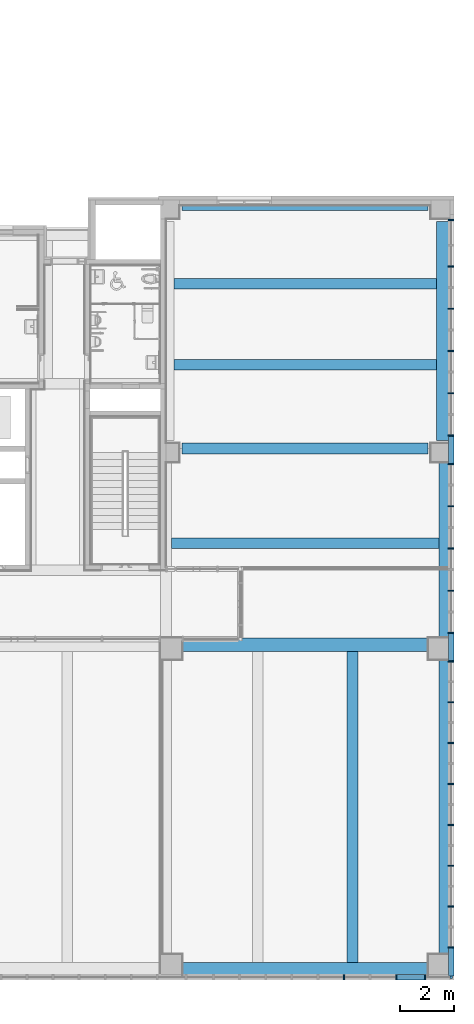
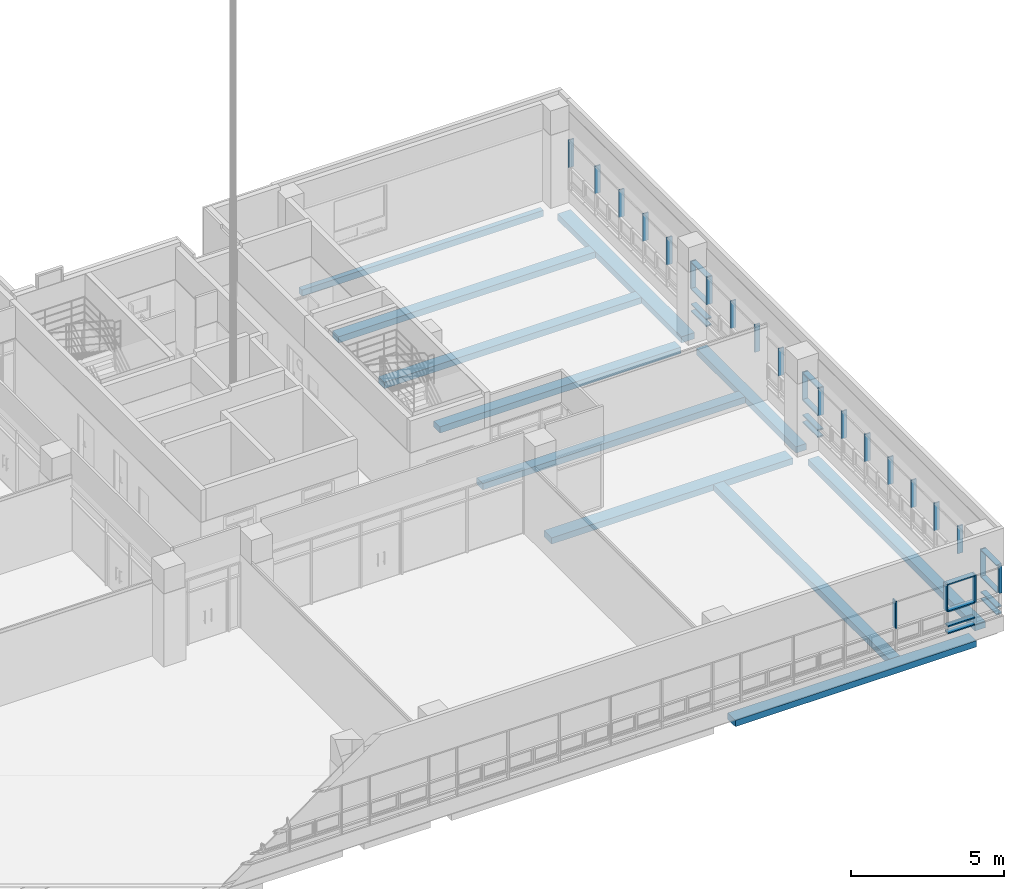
# One storey, part 7 of 82: 39 members, 11 beams, 2 elements without a shape of their own.
"""IFC2X3 building model written with IfcOpenShell, lengths in millimetres."""

from ifc_helpers import new_model, entity, si_unit, converted_unit, derived_unit, direction, frame, frame_2d, origin, origin_2d_with_axis, place, context, subcontext, project, spatial, rectangle, extrude, source, transform, mapped, material, type_object, type_shapes, element, aggregate, save


model = new_model("IFC2X3")

# Units and contexts
model_context = context("Model", 3, precision=0.01, world=origin(), true_north=direction((6.123031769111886e-17, 1.0)))
body_context = subcontext(model_context, "Body", "Model", "MODEL_VIEW")
ifc_project = project(units=[si_unit("LENGTHUNIT", "METRE", prefix="MILLI"), si_unit("AREAUNIT", "SQUARE_METRE"), si_unit("VOLUMEUNIT", "CUBIC_METRE"), converted_unit("PLANEANGLEUNIT", "DEGREE", entity("IfcRatioMeasure", 0.017453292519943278), si_unit("PLANEANGLEUNIT", "RADIAN"), dimensions=[0, 0, 0, 0, 0, 0, 0]), si_unit("MASSUNIT", "GRAM", prefix="KILO"), derived_unit("MASSDENSITYUNIT", [(si_unit("MASSUNIT", "GRAM", prefix="KILO"), 1), (si_unit("LENGTHUNIT", "METRE"), -3)]), derived_unit("MOMENTOFINERTIAUNIT", [(si_unit("LENGTHUNIT", "METRE"), 4)]), si_unit("TIMEUNIT", "SECOND"), si_unit("FREQUENCYUNIT", "HERTZ"), si_unit("THERMODYNAMICTEMPERATUREUNIT", "DEGREE_CELSIUS"), derived_unit("THERMALTRANSMITTANCEUNIT", [(si_unit("MASSUNIT", "GRAM", prefix="KILO"), 1), (si_unit("THERMODYNAMICTEMPERATUREUNIT", "KELVIN"), -1), (si_unit("TIMEUNIT", "SECOND"), -3)]), derived_unit("VOLUMETRICFLOWRATEUNIT", [(si_unit("LENGTHUNIT", "METRE"), 3), (si_unit("TIMEUNIT", "SECOND"), -1)]), derived_unit("MASSFLOWRATEUNIT", [(si_unit("MASSUNIT", "GRAM", prefix="KILO"), 1), (si_unit("TIMEUNIT", "SECOND"), -1)]), derived_unit("ROTATIONALFREQUENCYUNIT", [(si_unit("TIMEUNIT", "SECOND"), -1)]), si_unit("ELECTRICCURRENTUNIT", "AMPERE"), si_unit("ELECTRICVOLTAGEUNIT", "VOLT"), si_unit("POWERUNIT", "WATT"), si_unit("FORCEUNIT", "NEWTON", prefix="KILO"), si_unit("ILLUMINANCEUNIT", "LUX"), si_unit("LUMINOUSFLUXUNIT", "LUMEN"), si_unit("LUMINOUSINTENSITYUNIT", "CANDELA"), derived_unit("USERDEFINED", [(si_unit("MASSUNIT", "GRAM", prefix="KILO"), -1), (si_unit("LENGTHUNIT", "METRE"), -2), (si_unit("TIMEUNIT", "SECOND"), 3), (si_unit("LUMINOUSFLUXUNIT", "LUMEN"), 1)]), derived_unit("SOUNDPOWERUNIT", [(si_unit("MASSUNIT", "GRAM", prefix="KILO"), 1), (si_unit("LENGTHUNIT", "METRE"), 2), (si_unit("TIMEUNIT", "SECOND"), -3)]), derived_unit("SOUNDPRESSUREUNIT", [(si_unit("MASSUNIT", "GRAM", prefix="KILO"), 1), (si_unit("LENGTHUNIT", "METRE"), -1), (si_unit("TIMEUNIT", "SECOND"), -2)]), derived_unit("LINEARVELOCITYUNIT", [(si_unit("LENGTHUNIT", "METRE"), 1), (si_unit("TIMEUNIT", "SECOND"), -1)]), si_unit("PRESSUREUNIT", "PASCAL"), derived_unit("USERDEFINED", [(si_unit("LENGTHUNIT", "METRE"), -2), (si_unit("MASSUNIT", "GRAM", prefix="KILO"), 1), (si_unit("TIMEUNIT", "SECOND"), -2)]), derived_unit("LINEARFORCEUNIT", [(si_unit("MASSUNIT", "GRAM", prefix="KILO"), 1), (si_unit("LENGTHUNIT", "METRE"), 1), (si_unit("TIMEUNIT", "SECOND"), -2), (si_unit("LENGTHUNIT", "METRE"), -1)]), derived_unit("PLANARFORCEUNIT", [(si_unit("MASSUNIT", "GRAM", prefix="KILO"), 1), (si_unit("LENGTHUNIT", "METRE"), 1), (si_unit("TIMEUNIT", "SECOND"), -2), (si_unit("LENGTHUNIT", "METRE"), -2)])], contexts=[model_context])

# Site, building, storey
site_placement = place(None, frame((-14167.972527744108, -657.2125860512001, 0.0)))
site = spatial("IfcSite", under=ifc_project, at=site_placement, Name="Default", CompositionType="ELEMENT")
building_placement = place(site_placement, origin())
building = spatial("IfcBuilding", under=site, at=building_placement, Name="Sample Building", CompositionType="ELEMENT")
storey_placement = place(building_placement, frame((0.0, 0.0, 17500.0)))
storey = spatial("IfcBuildingStorey", under=building, at=storey_placement, Name="지상 5층", CompositionType="ELEMENT", Elevation=17500.00000000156)

# Curtain wall, members
curtain_wall_type = type_object("IfcCurtainWallType", Name="커튼월:CW112-스테인리스 스틸 커튼월", PredefinedType="NOTDEFINED")
curtain_wall_1_placement = place(storey_placement, frame((0.0, 0.0, -17500.0)))
curtain_wall_1 = element("IfcCurtainWall", 1, at=curtain_wall_1_placement, inside=storey, type_object=curtain_wall_type, Name="커튼월:CW112-스테인리스 스틸 커튼월", ObjectType="커튼월:CW112-스테인리스 스틸 커튼월")
ifc_material_1 = material(Name="<Unnamed>")
member_type_1 = type_object("IfcMemberType", Name="직사각형 멀리언:CW200-직사각형 멀리언 50x200mm", PredefinedType="MULLION", material=ifc_material_1)
shared_shape_1 = source(origin(), body_context, "Body", "SweptSolid", [
    extrude(rectangle(XDim=200.0, YDim=50.0, at=origin_2d_with_axis()), frame((-25.0, 0.0, -1000.0), z_axis=(0.0, 0.0, 1.0), x_axis=(0.0, -1.0, 0.0)), (0.0, 0.0, 1.0), 1000.0000000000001),
])
type_shapes(member_type_1, [shared_shape_1])
member_1_placement = place(curtain_wall_1_placement, frame((51517.963828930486, 13215.817707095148, 18100.0), z_axis=(0.0, 1.0, 0.0), x_axis=(0.0, 0.0, -1.0)))
member_1 = element("IfcMember", 2, at=member_1_placement, type_object=member_type_1, material=ifc_material_1, Name="직사각형 멀리언:CW200-직사각형 멀리언 50x200mm", ObjectType="직사각형 멀리언:CW200-직사각형 멀리언 50x200mm", context=body_context, shape_type="MappedRepresentation", body=[
    mapped(shared_shape_1, transform((0.0, 0.0, 0.0), scale=1.0)),
])
member_2_placement = place(curtain_wall_1_placement, frame((51517.9638289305, 20513.817707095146, 18100.0), z_axis=(0.0, 1.0, 0.0), x_axis=(0.0, 0.0, -1.0)))
member_2 = element("IfcMember", 3, at=member_2_placement, type_object=member_type_1, material=ifc_material_1, Name="직사각형 멀리언:CW200-직사각형 멀리언 50x200mm", ObjectType="직사각형 멀리언:CW200-직사각형 멀리언 50x200mm", context=body_context, shape_type="MappedRepresentation", body=[
    mapped(shared_shape_1, transform((0.0, 0.0, 0.0), scale=1.0)),
])
member_type_2 = type_object("IfcMemberType", Name="직사각형 멀리언:CW200-직사각형 멀리언 50x200mm", PredefinedType="MULLION", material=ifc_material_1)
shared_shape_2 = source(origin(), body_context, "Body", "SweptSolid", [
    extrude(rectangle(XDim=200.0, YDim=50.0, at=origin_2d_with_axis()), frame((0.0, 0.0, -1000.0), z_axis=(0.0, 0.0, 1.0), x_axis=(0.0, -1.0, 0.0)), (0.0, 0.0, 1.0), 999.999999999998),
])
type_shapes(member_type_2, [shared_shape_2])
member_3_placement = place(curtain_wall_1_placement, frame((51517.963828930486, 12215.81770709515, 18400.0), z_axis=(0.0, -1.0, 0.0), x_axis=(0.0, 0.0, 1.0)))
member_3 = element("IfcMember", 4, at=member_3_placement, type_object=member_type_2, material=ifc_material_1, Name="직사각형 멀리언:CW200-직사각형 멀리언 50x200mm", ObjectType="직사각형 멀리언:CW200-직사각형 멀리언 50x200mm", context=body_context, shape_type="MappedRepresentation", body=[
    mapped(shared_shape_2, transform((0.0, 0.0, 0.0), scale=1.0)),
])
member_4_placement = place(curtain_wall_1_placement, frame((51517.963828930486, 12215.817707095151, 19000.0), z_axis=(0.0, -1.0, 0.0), x_axis=(0.0, 0.0, 1.0)))
member_4 = element("IfcMember", 5, at=member_4_placement, type_object=member_type_2, material=ifc_material_1, Name="직사각형 멀리언:CW200-직사각형 멀리언 50x200mm", ObjectType="직사각형 멀리언:CW200-직사각형 멀리언 50x200mm", context=body_context, shape_type="MappedRepresentation", body=[
    mapped(shared_shape_2, transform((0.0, 0.0, 0.0), scale=1.0)),
])
member_5_placement = place(curtain_wall_1_placement, frame((51517.96382893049, 19513.817707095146, 18400.0), z_axis=(0.0, -1.0, 0.0), x_axis=(0.0, 0.0, 1.0)))
member_5 = element("IfcMember", 6, at=member_5_placement, type_object=member_type_2, material=ifc_material_1, Name="직사각형 멀리언:CW200-직사각형 멀리언 50x200mm", ObjectType="직사각형 멀리언:CW200-직사각형 멀리언 50x200mm", context=body_context, shape_type="MappedRepresentation", body=[
    mapped(shared_shape_2, transform((0.0, 0.0, 0.0), scale=1.0)),
])
member_6_placement = place(curtain_wall_1_placement, frame((51517.96382893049, 19513.817707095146, 19000.0), z_axis=(0.0, -1.0, 0.0), x_axis=(0.0, 0.0, 1.0)))
member_6 = element("IfcMember", 7, at=member_6_placement, type_object=member_type_2, material=ifc_material_1, Name="직사각형 멀리언:CW200-직사각형 멀리언 50x200mm", ObjectType="직사각형 멀리언:CW200-직사각형 멀리언 50x200mm", context=body_context, shape_type="MappedRepresentation", body=[
    mapped(shared_shape_2, transform((0.0, 0.0, 0.0), scale=1.0)),
])
member_type_3 = type_object("IfcMemberType", Name="직사각형 멀리언:CW200-직사각형 멀리언 50x200mm", PredefinedType="MULLION", material=ifc_material_1)
shared_shape_3 = source(origin(), body_context, "Body", "SweptSolid", [
    extrude(rectangle(XDim=200.0, YDim=50.0, at=origin_2d_with_axis()), frame((-25.0, 0.0, -1000.0), z_axis=(0.0, 0.0, 1.0), x_axis=(0.0, -1.0, 0.0)), (0.0, 0.0, 1.0), 999.999999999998),
])
type_shapes(member_type_3, [shared_shape_3])
member_7_placement = place(curtain_wall_1_placement, frame((51517.963828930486, 12215.81770709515, 20100.0), z_axis=(0.0, -1.0, 0.0), x_axis=(0.0, 0.0, 1.0)))
member_7 = element("IfcMember", 8, at=member_7_placement, type_object=member_type_3, material=ifc_material_1, Name="직사각형 멀리언:CW200-직사각형 멀리언 50x200mm", ObjectType="직사각형 멀리언:CW200-직사각형 멀리언 50x200mm", context=body_context, shape_type="MappedRepresentation", body=[
    mapped(shared_shape_3, transform((0.0, 0.0, 0.0), scale=1.0)),
])
member_8_placement = place(curtain_wall_1_placement, frame((51517.96382893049, 19513.817707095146, 20100.0), z_axis=(0.0, -1.0, 0.0), x_axis=(0.0, 0.0, 1.0)))
member_8 = element("IfcMember", 9, at=member_8_placement, type_object=member_type_3, material=ifc_material_1, Name="직사각형 멀리언:CW200-직사각형 멀리언 50x200mm", ObjectType="직사각형 멀리언:CW200-직사각형 멀리언 50x200mm", context=body_context, shape_type="MappedRepresentation", body=[
    mapped(shared_shape_3, transform((0.0, 0.0, 0.0), scale=1.0)),
])
member_type_4 = type_object("IfcMemberType", Name="직사각형 멀리언:CW200-직사각형 멀리언 50x200mm", PredefinedType="MULLION", material=ifc_material_1)
shared_shape_4 = source(origin(), body_context, "Body", "SweptSolid", [
    extrude(rectangle(XDim=200.0, YDim=50.0, at=origin_2d_with_axis()), frame((-25.0, 0.0, -1100.0), z_axis=(0.0, 0.0, 1.0), x_axis=(0.0, -1.0, 0.0)), (0.0, 0.0, 1.0), 1100.0000000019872),
])
type_shapes(member_type_4, [shared_shape_4])
member_9_placement = place(curtain_wall_1_placement, frame((51517.96382893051, 28539.21239593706, 20100.0), z_axis=(0.0, 0.0, 1.0), x_axis=(0.0, 1.0, 0.0)))
member_9 = element("IfcMember", 10, at=member_9_placement, type_object=member_type_4, material=ifc_material_1, Name="직사각형 멀리언:CW200-직사각형 멀리언 50x200mm", ObjectType="직사각형 멀리언:CW200-직사각형 멀리언 50x200mm", context=body_context, shape_type="MappedRepresentation", body=[
    mapped(shared_shape_4, transform((0.0, 0.0, 0.0), scale=1.0)),
])

# Curtain wall, member
curtain_wall_2_placement = place(storey_placement, frame((0.0, 0.0, -17500.0)))
curtain_wall_2 = element("IfcCurtainWall", 11, at=curtain_wall_2_placement, inside=storey, type_object=curtain_wall_type, Name="커튼월:CW112-스테인리스 스틸 커튼월", ObjectType="커튼월:CW112-스테인리스 스틸 커튼월")
member_type_5 = type_object("IfcMemberType", Name="직사각형 멀리언:CW200-직사각형 멀리언 100 x 100mm", PredefinedType="MULLION", material=ifc_material_1)
shared_shape_5 = source(origin(), body_context, "Body", "SweptSolid", [
    extrude(rectangle(XDim=99.99999999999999, YDim=100.0, at=origin_2d_with_axis()), frame((-50.0, 0.0, -1100.0), z_axis=(0.0, 0.0, 1.0), x_axis=(0.0, -1.0, 0.0)), (0.0, 0.0, 1.0), 1099.9999999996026),
])
type_shapes(member_type_5, [shared_shape_5])
member_10_placement = place(curtain_wall_2_placement, frame((51567.339654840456, 507.2122951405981, 19000.0), z_axis=(0.0, 0.0, -1.0), x_axis=(1.0, 0.0, 0.0)))
member_10 = element("IfcMember", 12, at=member_10_placement, type_object=member_type_5, material=ifc_material_1, Name="직사각형 멀리언:CW200-직사각형 멀리언 100 x 100mm", ObjectType="직사각형 멀리언:CW200-직사각형 멀리언 100 x 100mm", context=body_context, shape_type="MappedRepresentation", body=[
    mapped(shared_shape_5, transform((0.0, 0.0, 0.0), scale=1.0)),
])

# Member
member_type_6 = type_object("IfcMemberType", Name="직사각형 멀리언:CW200-직사각형 멀리언 50x200mm", PredefinedType="MULLION", material=ifc_material_1)
shared_shape_6 = source(origin(), body_context, "Body", "SweptSolid", [
    extrude(rectangle(XDim=200.0, YDim=50.0, at=origin_2d_with_axis()), frame((0.0, 0.0, -1100.0), z_axis=(0.0, 0.0, 1.0), x_axis=(0.0, -1.0, 0.0)), (0.0, 0.0, 1.0), 1100.0000000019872),
])
type_shapes(member_type_6, [shared_shape_6])
member_11_placement = place(curtain_wall_1_placement, frame((51517.96382893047, 1607.2122951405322, 19000.0), z_axis=(0.0, 0.0, -1.0), x_axis=(0.0, -1.0, 0.0)))
member_11 = element("IfcMember", 13, at=member_11_placement, type_object=member_type_6, material=ifc_material_1, Name="직사각형 멀리언:CW200-직사각형 멀리언 50x200mm", ObjectType="직사각형 멀리언:CW200-직사각형 멀리언 50x200mm", context=body_context, shape_type="MappedRepresentation", body=[
    mapped(shared_shape_6, transform((0.0, 0.0, 0.0), scale=1.0)),
])

member_12_placement = place(curtain_wall_1_placement, frame((51517.96382893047, 3119.1559254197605, 19000.0), z_axis=(0.0, 0.0, -1.0), x_axis=(0.0, -1.0, 0.0)))
member_12 = element("IfcMember", 14, at=member_12_placement, type_object=member_type_6, material=ifc_material_1, Name="직사각형 멀리언:CW200-직사각형 멀리언 50x200mm", ObjectType="직사각형 멀리언:CW200-직사각형 멀리언 50x200mm", context=body_context, shape_type="MappedRepresentation", body=[
    mapped(shared_shape_6, transform((0.0, 0.0, 0.0), scale=1.0)),
])

member_13_placement = place(curtain_wall_1_placement, frame((51517.96382893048, 4631.099555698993, 19000.0), z_axis=(0.0, 0.0, -1.0), x_axis=(0.0, -1.0, 0.0)))
member_13 = element("IfcMember", 15, at=member_13_placement, type_object=member_type_6, material=ifc_material_1, Name="직사각형 멀리언:CW200-직사각형 멀리언 50x200mm", ObjectType="직사각형 멀리언:CW200-직사각형 멀리언 50x200mm", context=body_context, shape_type="MappedRepresentation", body=[
    mapped(shared_shape_6, transform((0.0, 0.0, 0.0), scale=1.0)),
])

member_14_placement = place(curtain_wall_1_placement, frame((51517.96382893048, 6143.043185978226, 19000.0), z_axis=(0.0, 0.0, -1.0), x_axis=(0.0, -1.0, 0.0)))
member_14 = element("IfcMember", 16, at=member_14_placement, type_object=member_type_6, material=ifc_material_1, Name="직사각형 멀리언:CW200-직사각형 멀리언 50x200mm", ObjectType="직사각형 멀리언:CW200-직사각형 멀리언 50x200mm", context=body_context, shape_type="MappedRepresentation", body=[
    mapped(shared_shape_6, transform((0.0, 0.0, 0.0), scale=1.0)),
])

member_15_placement = place(curtain_wall_1_placement, frame((51517.96382893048, 7654.986816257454, 19000.0), z_axis=(0.0, 0.0, -1.0), x_axis=(0.0, -1.0, 0.0)))
member_15 = element("IfcMember", 17, at=member_15_placement, type_object=member_type_6, material=ifc_material_1, Name="직사각형 멀리언:CW200-직사각형 멀리언 50x200mm", ObjectType="직사각형 멀리언:CW200-직사각형 멀리언 50x200mm", context=body_context, shape_type="MappedRepresentation", body=[
    mapped(shared_shape_6, transform((0.0, 0.0, 0.0), scale=1.0)),
])

member_16_placement = place(curtain_wall_1_placement, frame((51517.963828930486, 9166.930446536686, 19000.0), z_axis=(0.0, 0.0, -1.0), x_axis=(0.0, -1.0, 0.0)))
member_16 = element("IfcMember", 18, at=member_16_placement, type_object=member_type_6, material=ifc_material_1, Name="직사각형 멀리언:CW200-직사각형 멀리언 50x200mm", ObjectType="직사각형 멀리언:CW200-직사각형 멀리언 50x200mm", context=body_context, shape_type="MappedRepresentation", body=[
    mapped(shared_shape_6, transform((0.0, 0.0, 0.0), scale=1.0)),
])

member_17_placement = place(curtain_wall_1_placement, frame((51517.963828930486, 10678.874076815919, 19000.0), z_axis=(0.0, 0.0, -1.0), x_axis=(0.0, -1.0, 0.0)))
member_17 = element("IfcMember", 19, at=member_17_placement, type_object=member_type_6, material=ifc_material_1, Name="직사각형 멀리언:CW200-직사각형 멀리언 50x200mm", ObjectType="직사각형 멀리언:CW200-직사각형 멀리언 50x200mm", context=body_context, shape_type="MappedRepresentation", body=[
    mapped(shared_shape_6, transform((0.0, 0.0, 0.0), scale=1.0)),
])

member_18_placement = place(curtain_wall_1_placement, frame((51517.963828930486, 12190.817707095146, 19000.0), z_axis=(0.0, 0.0, -1.0), x_axis=(0.0, -1.0, 0.0)))
member_18 = element("IfcMember", 20, at=member_18_placement, type_object=member_type_6, material=ifc_material_1, Name="직사각형 멀리언:CW200-직사각형 멀리언 50x200mm", ObjectType="직사각형 멀리언:CW200-직사각형 멀리언 50x200mm", context=body_context, shape_type="MappedRepresentation", body=[
    mapped(shared_shape_6, transform((0.0, 0.0, 0.0), scale=1.0)),
])

member_19_placement = place(curtain_wall_1_placement, frame((51517.963828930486, 13240.81770709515, 19000.0), z_axis=(0.0, 0.0, -1.0), x_axis=(0.0, -1.0, 0.0)))
member_19 = element("IfcMember", 21, at=member_19_placement, type_object=member_type_6, material=ifc_material_1, Name="직사각형 멀리언:CW200-직사각형 멀리언 50x200mm", ObjectType="직사각형 멀리언:CW200-직사각형 멀리언 50x200mm", context=body_context, shape_type="MappedRepresentation", body=[
    mapped(shared_shape_6, transform((0.0, 0.0, 0.0), scale=1.0)),
])

member_20_placement = place(curtain_wall_1_placement, frame((51517.96382893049, 14802.817707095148, 19000.0), z_axis=(0.0, 0.0, -1.0), x_axis=(0.0, -1.0, 0.0)))
member_20 = element("IfcMember", 22, at=member_20_placement, type_object=member_type_6, material=ifc_material_1, Name="직사각형 멀리언:CW200-직사각형 멀리언 50x200mm", ObjectType="직사각형 멀리언:CW200-직사각형 멀리언 50x200mm", context=body_context, shape_type="MappedRepresentation", body=[
    mapped(shared_shape_6, transform((0.0, 0.0, 0.0), scale=1.0)),
])

member_21_placement = place(curtain_wall_1_placement, frame((51517.96382893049, 16364.817707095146, 19000.0), z_axis=(0.0, 0.0, -1.0), x_axis=(0.0, -1.0, 0.0)))
member_21 = element("IfcMember", 23, at=member_21_placement, type_object=member_type_6, material=ifc_material_1, Name="직사각형 멀리언:CW200-직사각형 멀리언 50x200mm", ObjectType="직사각형 멀리언:CW200-직사각형 멀리언 50x200mm", context=body_context, shape_type="MappedRepresentation", body=[
    mapped(shared_shape_6, transform((0.0, 0.0, 0.0), scale=1.0)),
])

member_22_placement = place(curtain_wall_1_placement, frame((51517.96382893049, 17926.817707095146, 19000.0), z_axis=(0.0, 0.0, -1.0), x_axis=(0.0, -1.0, 0.0)))
member_22 = element("IfcMember", 24, at=member_22_placement, type_object=member_type_6, material=ifc_material_1, Name="직사각형 멀리언:CW200-직사각형 멀리언 50x200mm", ObjectType="직사각형 멀리언:CW200-직사각형 멀리언 50x200mm", context=body_context, shape_type="MappedRepresentation", body=[
    mapped(shared_shape_6, transform((0.0, 0.0, 0.0), scale=1.0)),
])

member_23_placement = place(curtain_wall_1_placement, frame((51517.96382893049, 19488.817707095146, 19000.0), z_axis=(0.0, 0.0, -1.0), x_axis=(0.0, -1.0, 0.0)))
member_23 = element("IfcMember", 25, at=member_23_placement, type_object=member_type_6, material=ifc_material_1, Name="직사각형 멀리언:CW200-직사각형 멀리언 50x200mm", ObjectType="직사각형 멀리언:CW200-직사각형 멀리언 50x200mm", context=body_context, shape_type="MappedRepresentation", body=[
    mapped(shared_shape_6, transform((0.0, 0.0, 0.0), scale=1.0)),
])

member_24_placement = place(curtain_wall_1_placement, frame((51517.9638289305, 20538.817707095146, 19000.0), z_axis=(0.0, 0.0, -1.0), x_axis=(0.0, -1.0, 0.0)))
member_24 = element("IfcMember", 26, at=member_24_placement, type_object=member_type_6, material=ifc_material_1, Name="직사각형 멀리언:CW200-직사각형 멀리언 50x200mm", ObjectType="직사각형 멀리언:CW200-직사각형 멀리언 50x200mm", context=body_context, shape_type="MappedRepresentation", body=[
    mapped(shared_shape_6, transform((0.0, 0.0, 0.0), scale=1.0)),
])

member_25_placement = place(curtain_wall_1_placement, frame((51517.9638289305, 22102.496624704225, 19000.0), z_axis=(0.0, 0.0, -1.0), x_axis=(0.0, -1.0, 0.0)))
member_25 = element("IfcMember", 27, at=member_25_placement, type_object=member_type_6, material=ifc_material_1, Name="직사각형 멀리언:CW200-직사각형 멀리언 50x200mm", ObjectType="직사각형 멀리언:CW200-직사각형 멀리언 50x200mm", context=body_context, shape_type="MappedRepresentation", body=[
    mapped(shared_shape_6, transform((0.0, 0.0, 0.0), scale=1.0)),
])

member_26_placement = place(curtain_wall_1_placement, frame((51517.9638289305, 23666.1755423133, 19000.0), z_axis=(0.0, 0.0, -1.0), x_axis=(0.0, -1.0, 0.0)))
member_26 = element("IfcMember", 28, at=member_26_placement, type_object=member_type_6, material=ifc_material_1, Name="직사각형 멀리언:CW200-직사각형 멀리언 50x200mm", ObjectType="직사각형 멀리언:CW200-직사각형 멀리언 50x200mm", context=body_context, shape_type="MappedRepresentation", body=[
    mapped(shared_shape_6, transform((0.0, 0.0, 0.0), scale=1.0)),
])

member_27_placement = place(curtain_wall_1_placement, frame((51517.9638289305, 25229.85445992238, 19000.0), z_axis=(0.0, 0.0, -1.0), x_axis=(0.0, -1.0, 0.0)))
member_27 = element("IfcMember", 29, at=member_27_placement, type_object=member_type_6, material=ifc_material_1, Name="직사각형 멀리언:CW200-직사각형 멀리언 50x200mm", ObjectType="직사각형 멀리언:CW200-직사각형 멀리언 50x200mm", context=body_context, shape_type="MappedRepresentation", body=[
    mapped(shared_shape_6, transform((0.0, 0.0, 0.0), scale=1.0)),
])

member_28_placement = place(curtain_wall_1_placement, frame((51517.96382893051, 26793.53337753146, 19000.0), z_axis=(0.0, 0.0, -1.0), x_axis=(0.0, -1.0, 0.0)))
member_28 = element("IfcMember", 30, at=member_28_placement, type_object=member_type_6, material=ifc_material_1, Name="직사각형 멀리언:CW200-직사각형 멀리언 50x200mm", ObjectType="직사각형 멀리언:CW200-직사각형 멀리언 50x200mm", context=body_context, shape_type="MappedRepresentation", body=[
    mapped(shared_shape_6, transform((0.0, 0.0, 0.0), scale=1.0)),
])

member_29_placement = place(curtain_wall_2_placement, frame((47555.156070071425, 507.2122951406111, 19000.0), z_axis=(0.0, 0.0, -1.0), x_axis=(1.0, 0.0, 0.0)))
member_29 = element("IfcMember", 31, at=member_29_placement, type_object=member_type_6, material=ifc_material_1, Name="직사각형 멀리언:CW200-직사각형 멀리언 50x200mm", ObjectType="직사각형 멀리언:CW200-직사각형 멀리언 50x200mm", context=body_context, shape_type="MappedRepresentation", body=[
    mapped(shared_shape_6, transform((0.0, 0.0, 0.0), scale=1.0)),
])

member_30_placement = place(curtain_wall_2_placement, frame((49485.15607007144, 507.21229514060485, 19000.0), z_axis=(0.0, 0.0, -1.0), x_axis=(1.0, 0.0, 0.0)))
member_30 = element("IfcMember", 32, at=member_30_placement, type_object=member_type_6, material=ifc_material_1, Name="직사각형 멀리언:CW200-직사각형 멀리언 50x200mm", ObjectType="직사각형 멀리언:CW200-직사각형 멀리언 50x200mm", context=body_context, shape_type="MappedRepresentation", body=[
    mapped(shared_shape_6, transform((0.0, 0.0, 0.0), scale=1.0)),
])

member_31_placement = place(curtain_wall_2_placement, frame((50550.156070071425, 507.2122951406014, 19000.0), z_axis=(0.0, 0.0, -1.0), x_axis=(1.0, 0.0, 0.0)))
member_31 = element("IfcMember", 33, at=member_31_placement, type_object=member_type_6, material=ifc_material_1, Name="직사각형 멀리언:CW200-직사각형 멀리언 50x200mm", ObjectType="직사각형 멀리언:CW200-직사각형 멀리언 50x200mm", context=body_context, shape_type="MappedRepresentation", body=[
    mapped(shared_shape_6, transform((0.0, 0.0, 0.0), scale=1.0)),
])

member_type_7 = type_object("IfcMemberType", Name="직사각형 멀리언:CW200-직사각형 멀리언 50x200mm", PredefinedType="MULLION", material=ifc_material_1)
shared_shape_7 = source(origin(), body_context, "Body", "SweptSolid", [
    extrude(rectangle(XDim=200.0, YDim=50.0, at=origin_2d_with_axis()), frame((-25.0, 0.0, -1015.0), z_axis=(0.0, 0.0, 1.0), x_axis=(0.0, -1.0, 0.0)), (0.0, 0.0, 1.0), 1015.000000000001),
])
type_shapes(member_type_7, [shared_shape_7])
member_32_placement = place(curtain_wall_2_placement, frame((50525.15607007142, 507.2122951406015, 20100.0), z_axis=(1.0, 0.0, 0.0), x_axis=(0.0, 0.0, 1.0)))
member_32 = element("IfcMember", 34, at=member_32_placement, type_object=member_type_7, material=ifc_material_1, Name="직사각형 멀리언:CW200-직사각형 멀리언 50x200mm", ObjectType="직사각형 멀리언:CW200-직사각형 멀리언 50x200mm", context=body_context, shape_type="MappedRepresentation", body=[
    mapped(shared_shape_7, transform((0.0, 0.0, 0.0), scale=1.0)),
])

member_type_8 = type_object("IfcMemberType", Name="직사각형 멀리언:CW200-직사각형 멀리언 50x200mm", PredefinedType="MULLION", material=ifc_material_1)
shared_shape_8 = source(origin(), body_context, "Body", "SweptSolid", [
    extrude(rectangle(XDim=200.0, YDim=50.0, at=origin_2d_with_axis()), frame((-25.0, 0.0, -1015.0), z_axis=(0.0, 0.0, 1.0), x_axis=(0.0, -1.0, 0.0)), (0.0, 0.0, 1.0), 1014.9999999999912),
])
type_shapes(member_type_8, [shared_shape_8])
member_33_placement = place(curtain_wall_2_placement, frame((49510.15607007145, 507.2122951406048, 18100.0), z_axis=(-1.0, 0.0, 0.0), x_axis=(0.0, 0.0, -1.0)))
member_33 = element("IfcMember", 35, at=member_33_placement, type_object=member_type_8, material=ifc_material_1, Name="직사각형 멀리언:CW200-직사각형 멀리언 50x200mm", ObjectType="직사각형 멀리언:CW200-직사각형 멀리언 50x200mm", context=body_context, shape_type="MappedRepresentation", body=[
    mapped(shared_shape_8, transform((0.0, 0.0, 0.0), scale=1.0)),
])

member_type_9 = type_object("IfcMemberType", Name="직사각형 멀리언:CW200-직사각형 멀리언 50x200mm", PredefinedType="MULLION", material=ifc_material_1)
shared_shape_9 = source(origin(), body_context, "Body", "SweptSolid", [
    extrude(rectangle(XDim=200.0, YDim=50.0, at=origin_2d_with_axis()), frame((0.0, 0.0, -1015.0), z_axis=(0.0, 0.0, 1.0), x_axis=(0.0, -1.0, 0.0)), (0.0, 0.0, 1.0), 1014.9999999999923),
])
type_shapes(member_type_9, [shared_shape_9])
member_34_placement = place(curtain_wall_2_placement, frame((50525.15607007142, 507.2122951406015, 18400.0), z_axis=(1.0, 0.0, 0.0), x_axis=(0.0, 0.0, 1.0)))
member_34 = element("IfcMember", 36, at=member_34_placement, type_object=member_type_9, material=ifc_material_1, Name="직사각형 멀리언:CW200-직사각형 멀리언 50x200mm", ObjectType="직사각형 멀리언:CW200-직사각형 멀리언 50x200mm", context=body_context, shape_type="MappedRepresentation", body=[
    mapped(shared_shape_9, transform((0.0, 0.0, 0.0), scale=1.0)),
])

member_35_placement = place(curtain_wall_2_placement, frame((50525.15607007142, 507.2122951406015, 19000.0), z_axis=(1.0, 0.0, 0.0), x_axis=(0.0, 0.0, 1.0)))
member_35 = element("IfcMember", 37, at=member_35_placement, type_object=member_type_9, material=ifc_material_1, Name="직사각형 멀리언:CW200-직사각형 멀리언 50x200mm", ObjectType="직사각형 멀리언:CW200-직사각형 멀리언 50x200mm", context=body_context, shape_type="MappedRepresentation", body=[
    mapped(shared_shape_9, transform((0.0, 0.0, 0.0), scale=1.0)),
])

aggregate(curtain_wall_2, [member_10, member_29, member_33, member_34, member_35, member_30, member_32, member_31])

member_type_10 = type_object("IfcMemberType", Name="직사각형 멀리언:CW200-직사각형 멀리언 50x200mm", PredefinedType="MULLION", material=ifc_material_1)
shared_shape_10 = source(origin(), body_context, "Body", "SweptSolid", [
    extrude(rectangle(XDim=200.0, YDim=50.0, at=origin_2d_with_axis()), frame((-25.0, 0.0, -1025.0), z_axis=(0.0, 0.0, 1.0), x_axis=(0.0, -1.0, 0.0)), (0.0, 0.0, 1.0), 1024.9999999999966),
])
type_shapes(member_type_10, [shared_shape_10])
member_36_placement = place(curtain_wall_1_placement, frame((51517.96382893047, 557.212295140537, 20100.0), z_axis=(0.0, -1.0, 0.0), x_axis=(0.0, 0.0, 1.0)))
member_36 = element("IfcMember", 38, at=member_36_placement, type_object=member_type_10, material=ifc_material_1, Name="직사각형 멀리언:CW200-직사각형 멀리언 50x200mm", ObjectType="직사각형 멀리언:CW200-직사각형 멀리언 50x200mm", context=body_context, shape_type="MappedRepresentation", body=[
    mapped(shared_shape_10, transform((0.0, 0.0, 0.0), scale=1.0)),
])

member_type_11 = type_object("IfcMemberType", Name="직사각형 멀리언:CW200-직사각형 멀리언 50x200mm", PredefinedType="MULLION", material=ifc_material_1)
shared_shape_11 = source(origin(), body_context, "Body", "SweptSolid", [
    extrude(rectangle(XDim=200.0, YDim=50.0, at=origin_2d_with_axis()), frame((-25.0, 0.0, -1025.0), z_axis=(0.0, 0.0, 1.0), x_axis=(0.0, -1.0, 0.0)), (0.0, 0.0, 1.0), 1024.9999999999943),
])
type_shapes(member_type_11, [shared_shape_11])
member_37_placement = place(curtain_wall_1_placement, frame((51517.96382893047, 1582.2122951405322, 18100.0), z_axis=(0.0, 1.0, 0.0), x_axis=(0.0, 0.0, -1.0)))
member_37 = element("IfcMember", 39, at=member_37_placement, type_object=member_type_11, material=ifc_material_1, Name="직사각형 멀리언:CW200-직사각형 멀리언 50x200mm", ObjectType="직사각형 멀리언:CW200-직사각형 멀리언 50x200mm", context=body_context, shape_type="MappedRepresentation", body=[
    mapped(shared_shape_11, transform((0.0, 0.0, 0.0), scale=1.0)),
])

member_type_12 = type_object("IfcMemberType", Name="직사각형 멀리언:CW200-직사각형 멀리언 50x200mm", PredefinedType="MULLION", material=ifc_material_1)
shared_shape_12 = source(origin(), body_context, "Body", "SweptSolid", [
    extrude(rectangle(XDim=200.0, YDim=50.0, at=origin_2d_with_axis()), frame((0.0, 0.0, -1025.0), z_axis=(0.0, 0.0, 1.0), x_axis=(0.0, -1.0, 0.0)), (0.0, 0.0, 1.0), 1024.9999999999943),
])
type_shapes(member_type_12, [shared_shape_12])
member_38_placement = place(curtain_wall_1_placement, frame((51517.96382893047, 557.212295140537, 18400.0), z_axis=(0.0, -1.0, 0.0), x_axis=(0.0, 0.0, 1.0)))
member_38 = element("IfcMember", 40, at=member_38_placement, type_object=member_type_12, material=ifc_material_1, Name="직사각형 멀리언:CW200-직사각형 멀리언 50x200mm", ObjectType="직사각형 멀리언:CW200-직사각형 멀리언 50x200mm", context=body_context, shape_type="MappedRepresentation", body=[
    mapped(shared_shape_12, transform((0.0, 0.0, 0.0), scale=1.0)),
])

member_39_placement = place(curtain_wall_1_placement, frame((51517.96382893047, 557.212295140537, 19000.0), z_axis=(0.0, -1.0, 0.0), x_axis=(0.0, 0.0, 1.0)))
member_39 = element("IfcMember", 41, at=member_39_placement, type_object=member_type_12, material=ifc_material_1, Name="직사각형 멀리언:CW200-직사각형 멀리언 50x200mm", ObjectType="직사각형 멀리언:CW200-직사각형 멀리언 50x200mm", context=body_context, shape_type="MappedRepresentation", body=[
    mapped(shared_shape_12, transform((0.0, 0.0, 0.0), scale=1.0)),
])

aggregate(curtain_wall_1, [member_36, member_9, member_37, member_38, member_39, member_11, member_12, member_13, member_14, member_15, member_16, member_17, member_7, member_18, member_1, member_3, member_4, member_19, member_20, member_21, member_22, member_8, member_23, member_2, member_5, member_6, member_24, member_25, member_26, member_27, member_28])

# Beams
ifc_material_2 = material(Name="KBIMS-콘크리트")
beam_type_1 = type_object("IfcBeamType", Name="BM111-철근콘크리트구조 보:BM110-철근 콘크리트구조 보_500 x 400_2-10G9", PredefinedType="NOTDEFINED")
beam_1_placement = place(storey_placement, frame((51267.94647957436, 807.2123909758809, 0.0), z_axis=(0.0, 0.0, 1.0), x_axis=(-1.0, 0.0, 0.0)))
element("IfcBeam", 42, at=beam_1_placement, inside=storey, type_object=beam_type_1, material=ifc_material_2, Name="BM111-철근콘크리트구조 보:BM110-철근 콘크리트구조 보_500 x 400_2-10G9", ObjectType="BM111-철근콘크리트구조 보:BM110-철근 콘크리트구조 보_500 x 400_2-10G9", context=body_context, shape_type="SweptSolid", body=[
    extrude(rectangle(XDim=250.00000000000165, YDim=500.00000000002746, at=frame_2d((-1.0800249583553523e-12, -1.8246737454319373e-11), x_axis=(1.0, 0.0))), frame((599.9826414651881, 0.0, -275.0), z_axis=(1.0, 0.0, 0.0), x_axis=(0.0, 0.0, -1.0)), (0.0, 0.0, 1.0), 9100.008696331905),
])
beam_2_placement = place(storey_placement, frame((51267.955221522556, 12807.212551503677, 0.0), z_axis=(0.0, 0.0, 1.0), x_axis=(-1.0, 0.0, 0.0)))
element("IfcBeam", 43, at=beam_2_placement, inside=storey, type_object=beam_type_1, material=ifc_material_2, Name="BM111-철근콘크리트구조 보:BM110-철근 콘크리트구조 보_500 x 400_2-10G9", ObjectType="BM111-철근콘크리트구조 보:BM110-철근 콘크리트구조 보_500 x 400_2-10G9", context=body_context, shape_type="SweptSolid", body=[
    extrude(rectangle(XDim=250.00000000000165, YDim=500.0000000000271, at=frame_2d((-1.0800249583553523e-12, -1.8417267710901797e-11), x_axis=(1.0, 0.0))), frame((600.00008557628, 0.0, -275.0), z_axis=(1.0, 0.0, 0.0), x_axis=(0.0, 0.0, -1.0)), (0.0, 0.0, 1.0), 9099.999994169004),
])
beam_type_2 = type_object("IfcBeamType", Name="BM111-철근콘크리트구조 보:BM110-철근 콘크리트구조 보_400 x 400_2-10G1", PredefinedType="NOTDEFINED")
beam_3_placement = place(storey_placement, frame((41017.9726074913, 20057.21256687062, 0.0)))
element("IfcBeam", 44, at=beam_3_placement, inside=storey, type_object=beam_type_2, material=ifc_material_2, Name="BM111-철근콘크리트구조 보:BM110-철근 콘크리트구조 보_400 x 400_2-10G1", ObjectType="BM111-철근콘크리트구조 보:BM110-철근 콘크리트구조 보_400 x 400_2-10G1", context=body_context, shape_type="SweptSolid", body=[
    extrude(rectangle(XDim=250.00000000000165, YDim=400.00000000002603, at=frame_2d((-1.0800249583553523e-12, -1.9483081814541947e-11), x_axis=(1.0, 0.0))), frame((549.9825145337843, 0.0, -275.0), z_axis=(1.0, 0.0, 0.0), x_axis=(0.0, 0.0, -1.0)), (0.0, 0.0, 1.0), 9100.00874351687),
])
beam_4_placement = place(storey_placement, frame((41017.97260749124, 29057.212617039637, 0.0)))
element("IfcBeam", 45, at=beam_4_placement, inside=storey, type_object=beam_type_2, material=ifc_material_2, Name="BM111-철근콘크리트구조 보:BM110-철근 콘크리트구조 보_400 x 400_2-10G1", ObjectType="BM111-철근콘크리트구조 보:BM110-철근 콘크리트구조 보_400 x 400_2-10G1", context=body_context, shape_type="SweptSolid", body=[
    extrude(rectangle(XDim=250.00000000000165, YDim=199.99967810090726, at=frame_2d((-1.0800249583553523e-12, -2.1657342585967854e-11), x_axis=(1.0, 0.0))), frame((549.9825342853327, -100.0001609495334, -275.0), z_axis=(1.0, 0.0, 0.0), x_axis=(0.0, 0.0, -1.0)), (0.0, 0.0, 1.0), 9100.008723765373),
])
beam_type_3 = type_object("IfcBeamType", Name="BM111-철근콘크리트구조 보:BM110-철근 콘크리트구조 보_400 x 400_2-10G6", PredefinedType="NOTDEFINED")
beam_5_placement = place(storey_placement, frame((51267.94647957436, 12807.212551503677, 0.0), z_axis=(0.0, 0.0, 1.0), x_axis=(0.0, -1.0, 0.0)))
element("IfcBeam", 46, at=beam_5_placement, inside=storey, type_object=beam_type_3, material=ifc_material_2, Name="BM111-철근콘크리트구조 보:BM110-철근 콘크리트구조 보_400 x 400_2-10G6", ObjectType="BM111-철근콘크리트구조 보:BM110-철근 콘크리트구조 보_400 x 400_2-10G6", context=body_context, shape_type="SweptSolid", body=[
    extrude(rectangle(XDim=250.00000000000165, YDim=400.0000000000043, at=frame_2d((-1.0800249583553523e-12, 4.334310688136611e-12), x_axis=(1.0, 0.0))), frame((549.9995125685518, 0.0, -275.0), z_axis=(1.0, 0.0, 0.0), x_axis=(0.0, 0.0, -1.0)), (0.0, 0.0, 1.0), 10900.000421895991),
])
beam_type_4 = type_object("IfcBeamType", Name="BM111-철근콘크리트구조 보:BM110-철근 콘크리트구조 보_400 x 400_2-10B2", PredefinedType="NOTDEFINED")
beam_6_placement = place(storey_placement, frame((47867.946448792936, 12807.212551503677, 0.0), z_axis=(0.0, 0.0, 1.0), x_axis=(0.0, -1.0, 0.0)))
element("IfcBeam", 47, at=beam_6_placement, inside=storey, type_object=beam_type_4, material=ifc_material_2, Name="BM111-철근콘크리트구조 보:BM110-철근 콘크리트구조 보_400 x 400_2-10B2", ObjectType="BM111-철근콘크리트구조 보:BM110-철근 콘크리트구조 보_400 x 400_2-10B2", context=body_context, shape_type="SweptSolid", body=[
    extrude(rectangle(XDim=250.00000000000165, YDim=400.0000000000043, at=frame_2d((-1.0800249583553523e-12, 4.334310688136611e-12), x_axis=(1.0, 0.0))), frame((250.0, 0.0, -275.0), z_axis=(1.0, 0.0, 0.0), x_axis=(0.0, 0.0, -1.0)), (0.0, 0.0, 1.0), 11500.0001605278),
])
beam_type_5 = type_object("IfcBeamType", Name="BM111-철근콘크리트구조 보:BM110-철근 콘크리트구조 보_400 x 400_2-10G4", PredefinedType="BEAM", material=ifc_material_2)
beam_7_placement = place(storey_placement, frame((51267.955221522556, 12807.212551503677, 0.0), z_axis=(0.0, 0.0, 1.0), x_axis=(0.0, 1.0, 0.0)))
element("IfcBeam", 48, at=beam_7_placement, inside=storey, type_object=beam_type_5, material=ifc_material_2, Name="BM111-철근콘크리트구조 보:BM110-철근 콘크리트구조 보_400 x 400_2-10G4", ObjectType="BM111-철근콘크리트구조 보:BM110-철근 콘크리트구조 보_400 x 400_2-10G4", context=body_context, shape_type="SweptSolid", body=[
    extrude(rectangle(XDim=250.00000000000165, YDim=400.0000000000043, at=frame_2d((-1.0800249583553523e-12, 4.334310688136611e-12), x_axis=(1.0, 0.0))), frame((250.0004874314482, 0.0, -275.0), z_axis=(1.0, 0.0, 0.0), x_axis=(0.0, 0.0, -1.0)), (0.0, 0.0, 1.0), 6499.999578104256),
])
beam_type_6 = type_object("IfcBeamType", Name="BM111-철근콘크리트구조 보:BM110-철근 콘크리트구조 보_400 x 400_2-10B1", PredefinedType="NOTDEFINED")
beam_8_placement = place(storey_placement, frame((40967.955141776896, 16557.21245257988, 0.0)))
element("IfcBeam", 49, at=beam_8_placement, inside=storey, type_object=beam_type_6, material=ifc_material_2, Name="BM111-철근콘크리트구조 보:BM110-철근 콘크리트구조 보_400 x 400_2-10B1", ObjectType="BM111-철근콘크리트구조 보:BM110-철근 콘크리트구조 보_400 x 400_2-10B1", context=body_context, shape_type="SweptSolid", body=[
    extrude(rectangle(XDim=250.00000000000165, YDim=400.0000000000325, at=frame_2d((-1.0800249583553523e-12, -2.05773176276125e-11), x_axis=(1.0, 0.0))), frame((200.0, 0.0, -275.0), z_axis=(1.0, 0.0, 0.0), x_axis=(0.0, 0.0, -1.0)), (0.0, 0.0, 1.0), 9900.00007974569),
])
beam_9_placement = place(storey_placement, frame((41017.972607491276, 23157.2124262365, 0.0)))
element("IfcBeam", 50, at=beam_9_placement, inside=storey, type_object=beam_type_6, material=ifc_material_2, Name="BM111-철근콘크리트구조 보:BM110-철근 콘크리트구조 보_400 x 400_2-10B1", ObjectType="BM111-철근콘크리트구조 보:BM110-철근 콘크리트구조 보_400 x 400_2-10B1", context=body_context, shape_type="SweptSolid", body=[
    extrude(rectangle(XDim=250.00000000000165, YDim=400.0000000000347, at=frame_2d((-1.0800249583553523e-12, -2.3817392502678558e-11), x_axis=(1.0, 0.0))), frame((250.0, 0.0, -275.0), z_axis=(1.0, 0.0, 0.0), x_axis=(0.0, 0.0, -1.0)), (0.0, 0.0, 1.0), 9699.98253428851),
])
beam_10_placement = place(storey_placement, frame((41017.97260749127, 26157.212426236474, 0.0)))
element("IfcBeam", 51, at=beam_10_placement, inside=storey, type_object=beam_type_6, material=ifc_material_2, Name="BM111-철근콘크리트구조 보:BM110-철근 콘크리트구조 보_400 x 400_2-10B1", ObjectType="BM111-철근콘크리트구조 보:BM110-철근 콘크리트구조 보_400 x 400_2-10B1", context=body_context, shape_type="SweptSolid", body=[
    extrude(rectangle(XDim=250.00000000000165, YDim=400.00000000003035, at=frame_2d((-1.0800249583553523e-12, -1.7323031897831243e-11), x_axis=(1.0, 0.0))), frame((250.0, 0.0, -275.0), z_axis=(1.0, 0.0, 0.0), x_axis=(0.0, 0.0, -1.0)), (0.0, 0.0, 1.0), 9699.982534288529),
])
beam_type_7 = type_object("IfcBeamType", Name="BM111-철근콘크리트구조 보:BM110-철근 콘크리트구조 보_500 x 400_2-10G5", PredefinedType="NOTDEFINED")
beam_11_placement = place(storey_placement, frame((51217.955141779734, 28457.212620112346, 0.0), z_axis=(0.0, 0.0, 1.0), x_axis=(0.0, -1.0, 0.0)))
element("IfcBeam", 52, at=beam_11_placement, inside=storey, type_object=beam_type_7, material=ifc_material_2, Name="BM111-철근콘크리트구조 보:BM110-철근 콘크리트구조 보_500 x 400_2-10G5", ObjectType="BM111-철근콘크리트구조 보:BM110-철근 콘크리트구조 보_500 x 400_2-10G5", context=body_context, shape_type="SweptSolid", body=[
    extrude(rectangle(XDim=250.00000000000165, YDim=500.00000000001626, at=frame_2d((-1.0800249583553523e-12, -1.3002932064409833e-11), x_axis=(1.0, 0.0))), frame((0.0, 0.0, -275.0), z_axis=(1.0, 0.0, 0.0), x_axis=(0.0, 0.0, -1.0)), (0.0, 0.0, 1.0), 8100.000003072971),
])

save(model, "model.ifc")
